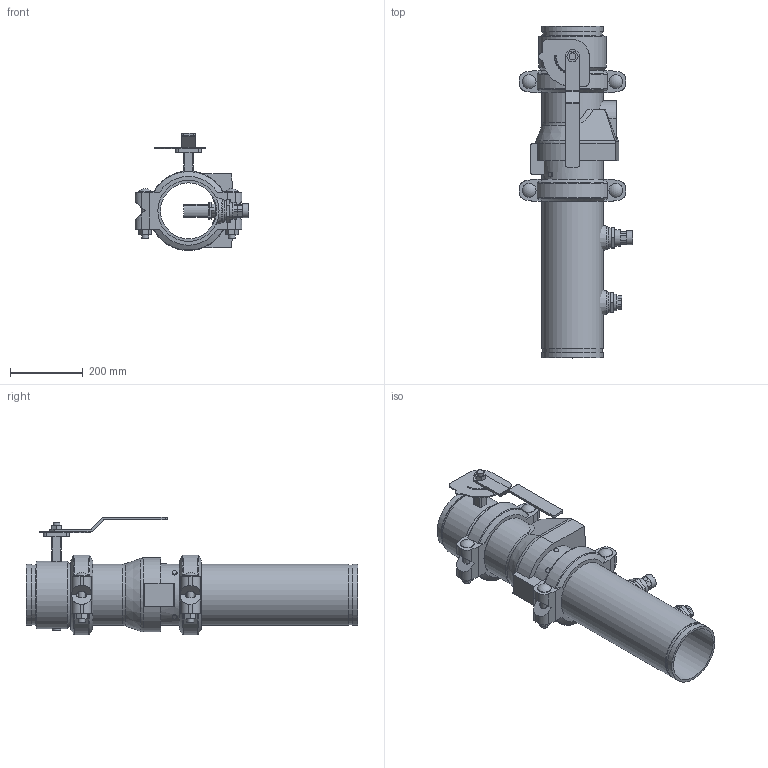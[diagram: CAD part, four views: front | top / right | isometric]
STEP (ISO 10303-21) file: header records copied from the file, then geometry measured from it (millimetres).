
FILE_DESCRIPTION(/* description */ ('VIC DVI PUMP DROP VERT S/380G (OGS)','CAx-IF Rec.Pracs.---Representation and Presentation of Product Manufacturing Information (PMI)---4.0---2014-10-13'),/* implementation_level */ '2;1');
FILE_NAME(/* name */ 'C:\Users\Public\Documents\Victaulic.Temp\A958\Victaulic_IPS_Vertical DVI_Series 380G (OGSxOGS)_06.0x06.0 (150x150).stp',/* time_stamp */ '2022-07-25T12:43:56+02:00',/* author */ ('Vjadhav'),/* organization */ ('Victaulic'),/* preprocessor_version */ 'ST-DEVELOPER v18',/* originating_system */ 'Autodesk Inventor 2020',/* authorisation */ '');
FILE_SCHEMA (('AP242_MANAGED_MODEL_BASED_3D_ENGINEERING_MIM_LF { 1 0 10303 442 1 1 4 }'));
Length unit declared in the file: inch
Products named in the file (7): 380G-06.0x06.0; Pipe-06.0x06.0; 177N-06.0; 761-06.0; 779-06.0; 923-04.0x0.75; 924-04.0x0.75
Assembly tree (7 placements, depth 2):
  380G-06.0x06.0
    Pipe-06.0x06.0
    177N-06.0  x2
    761-06.0
    779-06.0
    923-04.0x0.75
    924-04.0x0.75
Bounding box: 313.48 x 912.88 x 322.07 mm (x, y, z)
Volume: 8758744.4 mm3; surface area: 1473892.8 mm2
Topology: 7 solids, 8 shells, 465 faces, 1203 edges, 804 vertices
Faces by surface type: plane 275, cylinder 156, cone 14, torus 14, sphere 4, bspline 2
Full cylindrical faces by diameter (mm): 4.826 x10, 8.636 x4, 13.716 x4, 19.05 x6, 22.86 x1, 26.67 x2, 37.694 x4, 38.608 x1, 45.974 x4, 55.118 x1, 55.626 x2, 154.051 x3, 155.575 x2, 163.957 x6, 168.275 x15, 185.42 x1
Entity records: 12765 total; most frequent: CARTESIAN_POINT 2588, DIRECTION 2094, ORIENTED_EDGE 1924, EDGE_CURVE 962, AXIS2_PLACEMENT_3D 788, VERTEX_POINT 644, LINE 518, VECTOR 518
